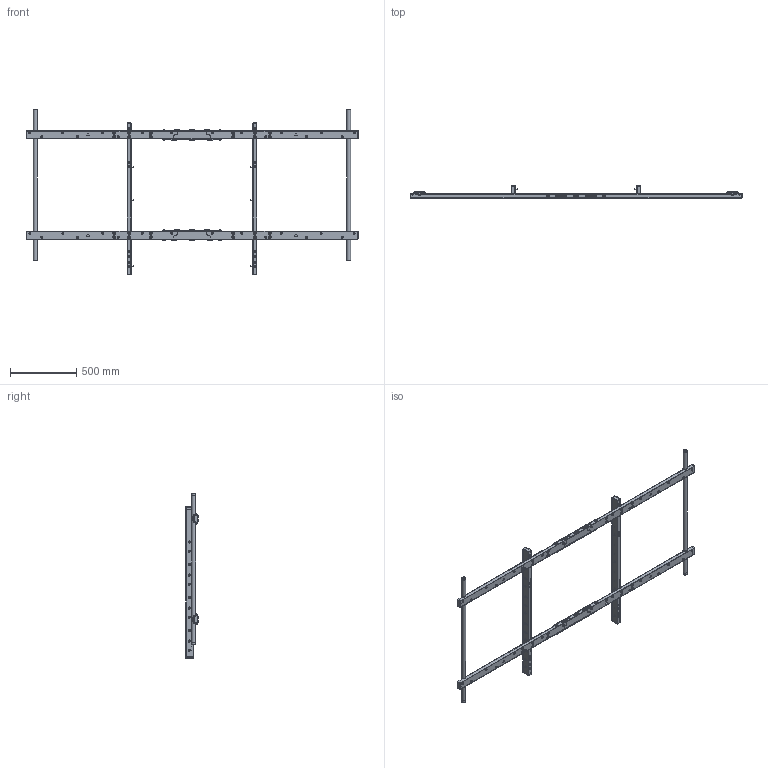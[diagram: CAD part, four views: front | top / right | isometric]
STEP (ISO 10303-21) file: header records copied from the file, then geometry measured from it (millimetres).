
FILE_DESCRIPTION(/* description */ ('PLANAR ASSY 122in'),/* implementation_level */ '2;1');
FILE_NAME(/* name */ 'PLANAR ASSY 122 IN.stp',/* time_stamp */ '2025-03-18T11:45:41+01:00',/* author */ ('p.weusten'),/* organization */ (''),/* preprocessor_version */ 'ST-DEVELOPER v20',/* originating_system */ 'Autodesk Inventor 2024',/* authorisation */ '');
FILE_SCHEMA (('AUTOMOTIVE_DESIGN { 1 0 10303 214 3 1 1 }'));
Length unit declared in the file: millimetre
Products named in the file (20): E000137016; 988D06; 945B92; 988D05; 945B93; 988D04; 945B91; 988D01; 945B94; 988D03; 945B90; 937039; 913819; 945B96; 988D07; 945B97; 937038; 945B98; 914B02; 914B03
Assembly tree (146 placements, depth 3):
  E000137016
    988D06
      945B92
      913819  x11
      937039  x2
    988D05
      945B93
      913819  x11
      937039  x2
    988D04  x2
      945B91
      913819
      937039
    988D01  x2
      945B94
      913819
    988D03  x2
      945B90
      913819
      937039
    914B02  x48
    945B96  x4
    988D07  x2
      945B97
      937038
    945B98  x4
    914B03  x8
Bounding box: 2514 x 93.2 x 1255 mm (x, y, z)
Volume: 4671912.6 mm3; surface area: 3320184.7 mm2
Topology: 180 solids, 180 shells, 5020 faces, 12356 edges, 7948 vertices
Faces by surface type: plane 3752, cylinder 914, cone 262, torus 92
Full cylindrical faces by diameter (mm): 6 x16, 6.048 x94, 7 x22, 8 x48, 10.65 x8, 10.947 x94, 15.375 x94, 16 x22, 17.445 x4, 22.445 x4, 26 x2, 30 x6
Entity records: 30874 total; most frequent: CARTESIAN_POINT 5324, DIRECTION 5099, ORIENTED_EDGE 5012, EDGE_CURVE 2506, LINE 1937, VECTOR 1937, VERTEX_POINT 1654, AXIS2_PLACEMENT_3D 1581
